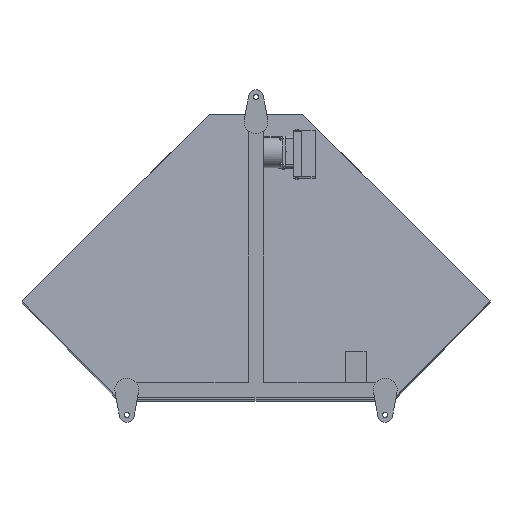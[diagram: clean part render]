
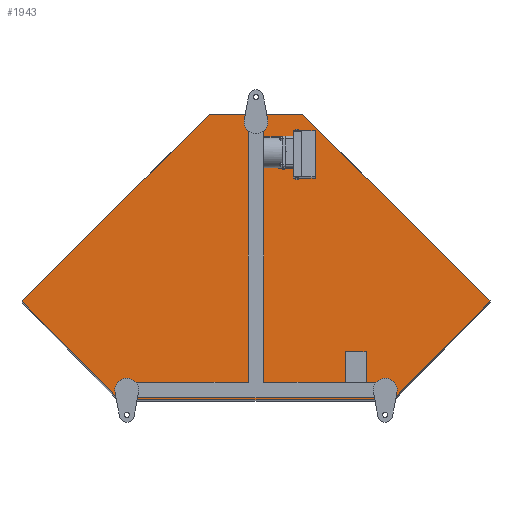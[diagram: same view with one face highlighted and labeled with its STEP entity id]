
A CAD part, front view. The second image highlights one B-rep face of the part: STEP entity #1943.
In plain terms, the highlighted planar face has unit normal (0, -0.999, 0.034).
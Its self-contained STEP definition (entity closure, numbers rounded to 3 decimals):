
#1943=ADVANCED_FACE('',(#5908),#5907,.T.);
#5907=PLANE('',#15232);
#5908=FACE_OUTER_BOUND('',#15233,.T.);
#15229=CARTESIAN_POINT('',(-607.505,-89.026,-110.006));
#15230=DIRECTION('',(0.,-0.999,0.034));
#15231=DIRECTION('',(0.,-0.034,-0.999));
#15232=AXIS2_PLACEMENT_3D('',#15229,#15230,#15231);
#15233=EDGE_LOOP('',(#21724,#21725,#21726,#21727,#21728,#21729));
#21724=ORIENTED_EDGE('',*,*,#25882,.T.);
#21725=ORIENTED_EDGE('',*,*,#25867,.T.);
#21726=ORIENTED_EDGE('',*,*,#25881,.T.);
#21727=ORIENTED_EDGE('',*,*,#25879,.T.);
#21728=ORIENTED_EDGE('',*,*,#25876,.T.);
#21729=ORIENTED_EDGE('',*,*,#25870,.T.);
#25867=EDGE_CURVE('',#32950,#32943,#32951,.T.);
#25870=EDGE_CURVE('',#32970,#32963,#32971,.T.);
#25876=EDGE_CURVE('',#32996,#32970,#33010,.T.);
#25879=EDGE_CURVE('',#33016,#32996,#33030,.T.);
#25881=EDGE_CURVE('',#32943,#33016,#33042,.T.);
#25882=EDGE_CURVE('',#32963,#32950,#33048,.T.);
#32943=VERTEX_POINT('',#49824);
#32950=VERTEX_POINT('',#49828);
#32951=LINE('',#49829,#49830);
#32963=VERTEX_POINT('',#49835);
#32970=VERTEX_POINT('',#49839);
#32971=LINE('',#49840,#49841);
#32996=VERTEX_POINT('',#49853);
#33010=LINE('',#49861,#49862);
#33016=VERTEX_POINT('',#49864);
#33030=LINE('',#49872,#49873);
#33042=LINE('',#49878,#49879);
#33048=LINE('',#49881,#49882);
#49824=CARTESIAN_POINT('',(-597.505,-105.421,-597.235));
#49828=CARTESIAN_POINT('',(-120.,-89.362,-120.));
#49829=CARTESIAN_POINT('',(-120.,-89.362,-120.));
#49830=VECTOR('',#49831,675.294);
#49831=DIRECTION('',(-0.707,-0.024,-0.707));
#49835=CARTESIAN_POINT('',(120.,-89.362,-120.));
#49839=CARTESIAN_POINT('',(597.505,-105.421,-597.235));
#49840=CARTESIAN_POINT('',(597.505,-105.421,-597.235));
#49841=VECTOR('',#49842,675.294);
#49842=DIRECTION('',(-0.707,0.024,0.707));
#49853=CARTESIAN_POINT('',(350.,-113.912,-849.587));
#49861=CARTESIAN_POINT('',(350.,-113.912,-849.587));
#49862=VECTOR('',#49863,353.571);
#49863=DIRECTION('',(0.7,0.024,0.714));
#49864=CARTESIAN_POINT('',(-350.,-113.912,-849.587));
#49872=CARTESIAN_POINT('',(-350.,-113.912,-849.587));
#49873=VECTOR('',#49874,700.);
#49874=DIRECTION('',(1.,0.,0.));
#49878=CARTESIAN_POINT('',(-597.505,-105.421,-597.235));
#49879=VECTOR('',#49880,353.571);
#49880=DIRECTION('',(0.7,-0.024,-0.714));
#49881=CARTESIAN_POINT('',(120.,-89.362,-120.));
#49882=VECTOR('',#49883,240.);
#49883=DIRECTION('',(-1.,0.,0.));
